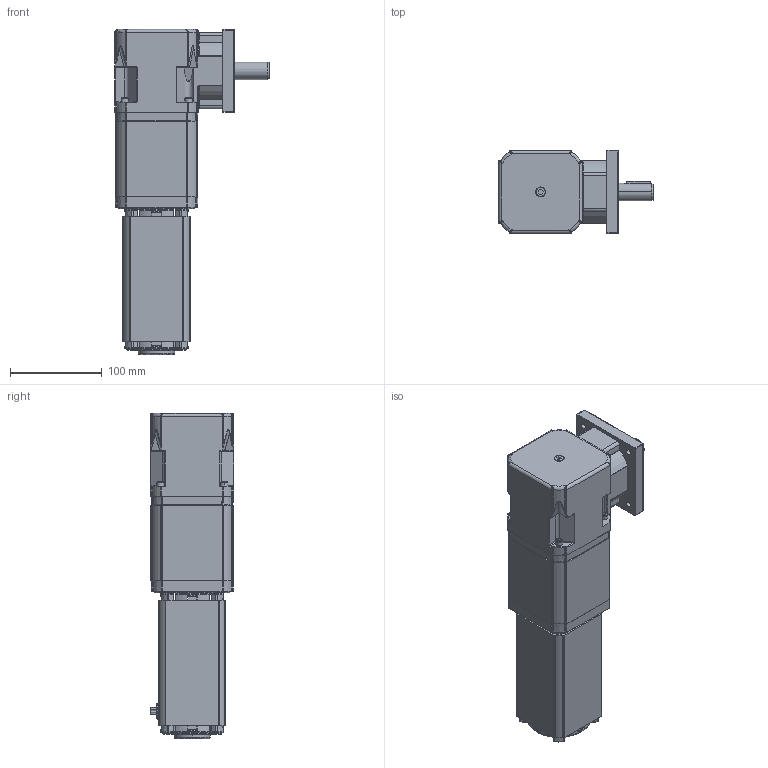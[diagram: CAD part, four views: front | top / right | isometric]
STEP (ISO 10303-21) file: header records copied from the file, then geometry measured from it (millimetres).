
FILE_DESCRIPTION (( 'STEP AP214' ), '1' );
FILE_NAME ('BL6560-RP7300_2S.STEP', '2013-01-29T13:13:43', ( '' ), ( '' ), 'SwSTEP 2.0', 'SolidWorks 2013', '' );
FILE_SCHEMA (( 'AUTOMOTIVE_DESIGN' ));
Length unit declared in the file: inch
Products named in the file (1): BL6560-RP7300_2S
Bounding box: 167.94 x 91.21 x 353.85 mm (x, y, z)
Surface area: 231466.5 mm2 (no closed solid volume)
Topology: 0 solids, 73 shells, 1288 faces, 4400 edges, 3061 vertices
Faces by surface type: cylinder 451, plane 335, cone 181, torus 164, bspline 122, sphere 35
Entity records: 71059 total; most frequent: CARTESIAN_POINT 17984, DIRECTION 7738, ORIENTED_EDGE 6823, EDGE_CURVE 4344, VERTEX_POINT 3061, AXIS2_PLACEMENT_3D 2975, CIRCLE 1808, LINE 1788
